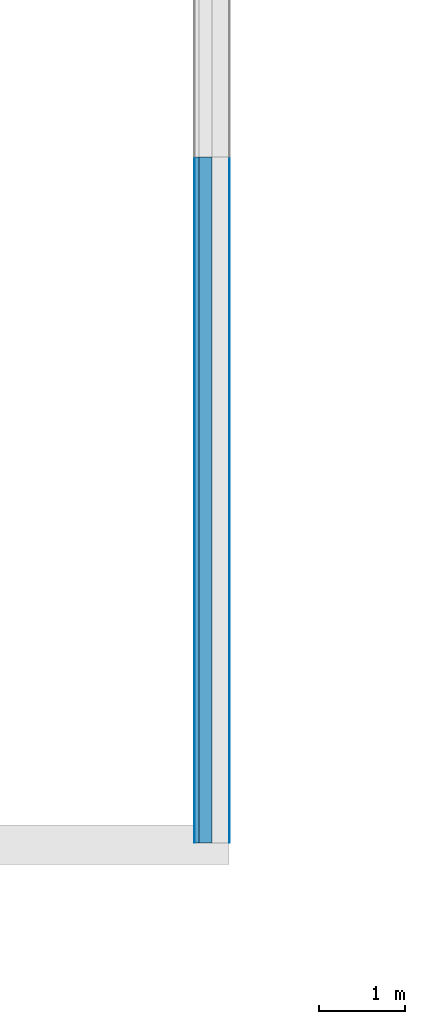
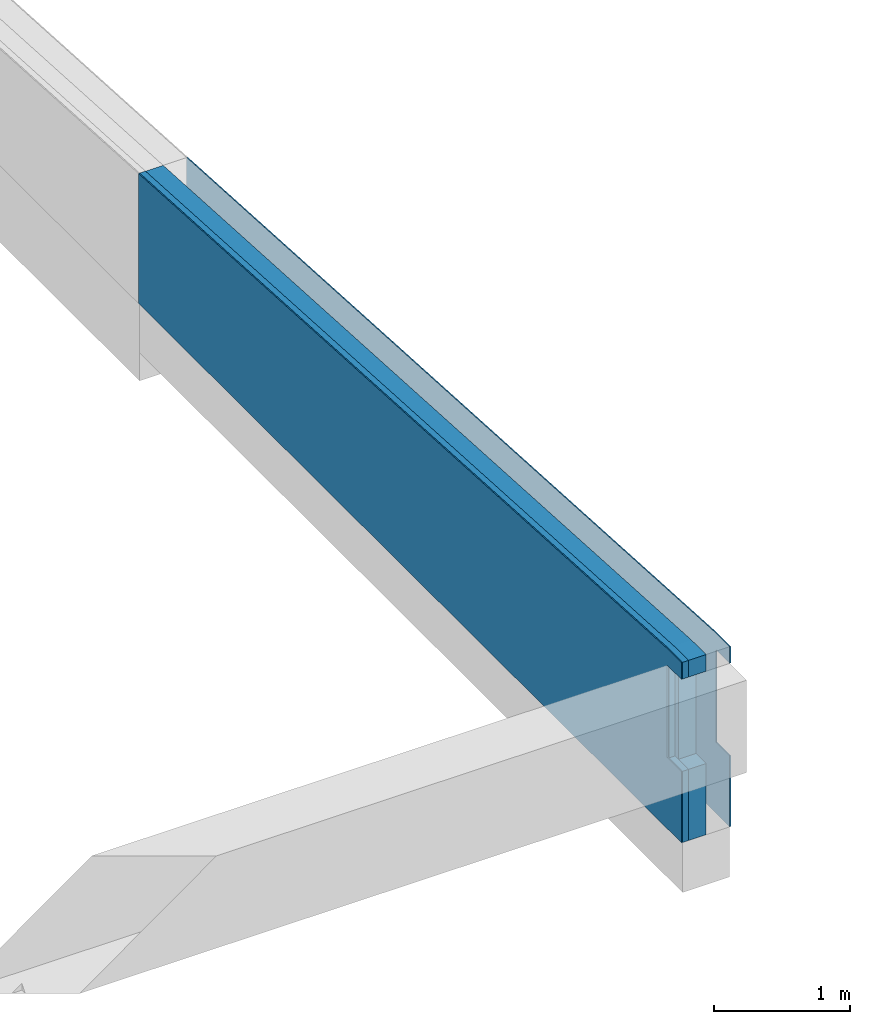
# One storey, part 5 of 17: 4 building element parts, 1 element without a shape of its own.
"""IFC2X3 building model written with IfcOpenShell, lengths in millimetres."""

from ifc_helpers import new_model, entity, si_unit, converted_unit, derived_unit, money_unit, direction, frame, origin_with_axes, place, context, subcontext, project, spatial, polyline, outline, extrude, boolean, faceted_brep, material, type_object, element, aggregate, save


model = new_model("IFC2X3")

# Units and contexts
model_context = context("Model", 3, precision=0.01, world=origin_with_axes(), true_north=direction((0.0, 1.0)))
body_context = subcontext(model_context, "Body", "Model", "MODEL_VIEW")
ifc_project = project(units=[si_unit("LENGTHUNIT", "METRE", prefix="MILLI"), si_unit("AREAUNIT", "SQUARE_METRE"), si_unit("VOLUMEUNIT", "CUBIC_METRE"), converted_unit("PLANEANGLEUNIT", "DEGREE", entity("IfcPlaneAngleMeasure", 0.0174532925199), si_unit("PLANEANGLEUNIT", "RADIAN"), dimensions=[0, 0, 0, 0, 0, 0, 0]), si_unit("SOLIDANGLEUNIT", "STERADIAN"), money_unit("EUR"), converted_unit("TIMEUNIT", "Year", entity("IfcTimeMeasure", 31556926.0), si_unit("TIMEUNIT", "SECOND"), dimensions=[0, 0, 1, 0, 0, 0, 0]), si_unit("MASSUNIT", "GRAM", prefix="KILO"), si_unit("THERMODYNAMICTEMPERATUREUNIT", "DEGREE_CELSIUS"), si_unit("LUMINOUSINTENSITYUNIT", "LUMEN"), si_unit("ENERGYUNIT", "JOULE", prefix="MEGA"), derived_unit("THERMALCONDUCTANCEUNIT", [(si_unit("POWERUNIT", "WATT"), 1), (si_unit("LENGTHUNIT", "METRE"), -1), (si_unit("THERMODYNAMICTEMPERATUREUNIT", "KELVIN"), -1)]), derived_unit("SPECIFICHEATCAPACITYUNIT", [(si_unit("ENERGYUNIT", "JOULE"), 1), (si_unit("MASSUNIT", "GRAM", prefix="KILO"), -1), (si_unit("THERMODYNAMICTEMPERATUREUNIT", "KELVIN"), -1)]), derived_unit("MASSDENSITYUNIT", [(si_unit("MASSUNIT", "GRAM", prefix="KILO"), 1), (si_unit("VOLUMEUNIT", "CUBIC_METRE"), -1)])], contexts=[model_context])

# Site, building, storey
site_placement = place(None, origin_with_axes())
site = spatial("IfcSite", under=ifc_project, at=site_placement, Name="Puškini 31, Narva", CompositionType="ELEMENT")
building_placement = place(site_placement, origin_with_axes())
building = spatial("IfcBuilding", under=site, at=building_placement, Name="Narva Riigigümnaasium", CompositionType="ELEMENT")
storey_placement = place(building_placement, frame((0.0, 0.0, -6800.0), z_axis=(0.0, 0.0, 1.0), x_axis=(1.0, 0.0, 0.0)))
storey = spatial("IfcBuildingStorey", under=building, at=storey_placement, Name="0.korrus -6.8", CompositionType="ELEMENT", Elevation=-6800.0)

# Wall, building element parts
wall_type = type_object("IfcWallType", Name="G-VS-02 420", PredefinedType="NOTDEFINED")
wall_placement = place(storey_placement, frame((22200.0, 167400.000124, 5330.0), z_axis=(0.0, 0.0, 1.0), x_axis=(0.0, -1.0, 0.0)))
wall = element("IfcWall", 1, at=wall_placement, inside=storey, type_object=wall_type, Name="Sisesein")
ifc_material_1 = material(Name="Salto-siseviimistlus")
building_element_part_1_placement = place(wall_placement, origin_with_axes())
solid_1 = boolean("DIFFERENCE", boolean("DIFFERENCE", boolean("DIFFERENCE", boolean("DIFFERENCE", boolean("DIFFERENCE", boolean("DIFFERENCE", boolean("DIFFERENCE", boolean("DIFFERENCE", extrude(outline(polyline([(0.0, 200.0), (8250.0001238, 200.0), (8250.0001238, 210.0), (0.0, 210.0), (0.0, 200.0)])), origin_with_axes(), (0.0, 0.0, 1.0), 1620.00000268), faceted_brep([(8000.0001238, 209.999998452, 640.0), (7800.0001238, 209.999998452, 640.0), (7800.0001238, 209.999998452, 1470.0), (8000.0001238, 209.999998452, 1470.0), (8000.0001238, 210.0, 1620.00000268), (8250.0001238, 210.0, 1620.00000268), (8250.0001238, 210.0, 0.0), (8000.0001238, 210.0, 0.0), (8000.0001238, 199.99999894, 640.0), (7800.0001238, 199.999997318, 640.0), (7800.0001238, 199.999997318, 1470.0), (8000.0001238, 199.999997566, 1470.0), (8000.0001238, 199.999997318, 1620.00000268), (8250.0001238, 200.0, 1620.00000268), (8250.0001238, 200.0, 0.0), (8000.0001238, 200.0, 0.0)], [[[0, 1, 2, 3, 4, 5, 6, 7]], [[1, 0, 8, 9]], [[2, 1, 9, 10]], [[3, 2, 10, 11]], [[12, 4, 3, 11]], [[4, 12, 13, 5]], [[13, 14, 6, 5]], [[15, 7, 6, 14]], [[0, 7, 15, 8]], [[8, 15, 14, 13, 12, 11, 10, 9]]])), faceted_brep([(0.0, 200.0, 150.0), (0.0, 210.0, 150.0), (0.0, 210.0, 0.0), (0.0, 200.0, 0.0), (4470.28537503, 209.999998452, 150.0), (190.000188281, 199.999997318, 150.0), (4470.28537503, 199.999997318, 150.0), (4470.28537503, 210.0, 0.0), (4470.28537503, 200.0, 0.0)], [[[0, 1, 2, 3]], [[4, 1, 0, 5, 6]], [[4, 7, 2, 1]], [[7, 8, 3, 2]], [[5, 0, 3, 8, 6]], [[7, 4, 6, 8]]])), faceted_brep([(7785.65542872, 210.0, 1620.00000261), (0.0, 210.0, 1168.5993001), (0.0, 210.0, 1620.00000268), (0.0, 200.0, 1168.5993001), (7785.65542872, 199.99999739, 1620.00000261), (0.0, 200.0, 1620.00000268)], [[[0, 1, 2]], [[3, 1, 0, 4]], [[1, 3, 5, 2]], [[4, 0, 2, 5]], [[3, 4, 5]]])), faceted_brep([(8000.0001238, 199.999997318, 1620.00000268), (8250.0001238, 200.0, 1620.00000268), (8250.0001238, 200.0, 0.0), (8000.0001238, 200.0, 0.0), (8000.0001238, 0.0, 1620.00000268), (8250.0001238, 0.0, 1620.00000268), (8250.0001238, 0.0, 0.0), (8000.0001238, 0.0, 0.0)], [[[0, 1, 2, 3]], [[0, 4, 5, 1]], [[5, 6, 2, 1]], [[7, 3, 2, 6]], [[4, 0, 3, 7]], [[7, 6, 5, 4]]])), faceted_brep([(7785.65542872, 199.99999739, 1620.00000261), (0.0, 200.0, 1168.5993001), (0.0, 200.0, 1620.00000268), (0.0, 0.0, 1168.5993001), (7785.65542872, 0.0, 1620.00000261), (0.0, 0.0, 1620.00000268)], [[[0, 1, 2]], [[3, 1, 0, 4]], [[1, 3, 5, 2]], [[4, 0, 2, 5]], [[3, 4, 5]]])), faceted_brep([(8000.0001238, 0.0, 640.0), (7850.0001238, 0.0, 640.0), (7850.0001238, 0.0, 1470.0), (8000.0001238, 0.0, 1470.0), (8000.0001238, 0.0, 1620.00000268), (8250.0001238, 0.0, 1620.00000268), (8250.0001238, 0.0, 0.0), (8000.0001238, 0.0, 0.0), (8000.0001238, -150.0, 640.0), (7850.0001238, -150.0, 640.0), (7850.0001238, -150.0, 1470.0), (8000.0001238, -150.0, 1470.0), (8000.0001238, -150.0, 1620.00000268), (8250.0001238, -150.0, 1620.00000268), (8250.0001238, -150.0, 0.0), (8000.0001238, -150.0, 0.0)], [[[0, 1, 2, 3, 4, 5, 6, 7]], [[1, 0, 8, 9]], [[2, 1, 9, 10]], [[3, 2, 10, 11]], [[12, 4, 3, 11]], [[4, 12, 13, 5]], [[13, 14, 6, 5]], [[15, 7, 6, 14]], [[7, 15, 8, 0]], [[8, 15, 14, 13, 12, 11, 10, 9]]])), faceted_brep([(7785.65542872, 0.0, 1620.00000261), (0.0, 0.0, 1168.5993001), (0.0, 0.0, 1620.00000268), (0.0, -150.0, 1168.5993001), (7785.65542872, -150.0, 1620.00000261), (0.0, -150.0, 1620.00000268)], [[[0, 1, 2]], [[3, 1, 0, 4]], [[1, 3, 5, 2]], [[4, 0, 2, 5]], [[3, 4, 5]]])), faceted_brep([(7850.0001238, -150.0, 640.0), (7800.0001238, -150.0, 640.0), (7800.0001238, -150.0, 1470.0), (7850.0001238, -150.0, 1470.0), (8000.0001238, -150.0, 1470.0), (8000.0001238, -150.0, 1620.00000268), (8250.0001238, -150.0, 1620.00000268), (8250.0001238, -150.0, 0.0), (8000.0001238, -150.0, 0.0), (8000.0001238, -150.0, 640.0), (8000.0001238, -200.0, 640.0), (7800.0001238, -199.999997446, 640.0), (7800.0001238, -199.999997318, 1470.0), (8000.0001238, -199.999997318, 1470.0), (8000.0001238, -199.999997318, 1620.00000268), (8250.0001238, -200.0, 1620.00000268), (8250.0001238, -200.0, 0.0), (8000.0001238, -200.0, 0.0)], [[[0, 1, 2, 3, 4, 5, 6, 7, 8, 9]], [[1, 0, 9, 10, 11]], [[2, 1, 11, 12]], [[3, 2, 12, 13, 4]], [[14, 5, 4, 13]], [[5, 14, 15, 6]], [[15, 16, 7, 6]], [[17, 8, 7, 16]], [[9, 8, 17, 10]], [[10, 17, 16, 15, 14, 13, 12, 11]]]))
building_element_part_1 = element("IfcBuildingElementPart", 2, at=building_element_part_1_placement, material=ifc_material_1, Name="Salto-siseviimistlus", context=body_context, shape_type="CSG", body=[
    boolean("DIFFERENCE", boolean("DIFFERENCE", boolean("DIFFERENCE", solid_1, faceted_brep([(7785.65542872, -150.0, 1620.00000261), (0.0, -150.0, 1168.5993001), (0.0, -150.0, 1620.00000268), (0.0, -200.0, 1168.5993001), (7785.65542872, -199.99999739, 1620.00000261), (0.0, -200.0, 1620.00000268)], [[[0, 1, 2]], [[3, 1, 0, 4]], [[1, 3, 5, 2]], [[4, 0, 2, 5]], [[3, 4, 5]]])), faceted_brep([(7790.0001238, -199.999997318, 640.0), (7790.0001238, -199.999997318, 1470.0), (8000.0001238, -199.999997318, 1470.0), (8000.0001238, -199.999997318, 1620.00000268), (8250.0001238, -200.0, 1620.00000268), (8250.0001238, -200.0, 0.0), (8000.0001238, -200.0, 0.0), (8000.0001238, -200.0, 640.0), (7790.0001238, -210.0, 640.0), (7790.0001238, -210.0, 1470.0), (8000.0001238, -210.0, 1470.0), (8000.0001238, -210.0, 1620.00000268), (8250.0001238, -210.0, 1620.00000268), (8250.0001238, -210.0, 0.0), (8000.0001238, -210.0, 0.0), (8000.0001238, -210.0, 640.0)], [[[0, 1, 2, 3, 4, 5, 6, 7]], [[1, 0, 8, 9]], [[1, 9, 10, 2]], [[11, 3, 2, 10]], [[3, 11, 12, 4]], [[12, 13, 5, 4]], [[14, 6, 5, 13]], [[6, 14, 15, 7]], [[0, 7, 15, 8]], [[15, 14, 13, 12, 11, 10, 9, 8]]])), faceted_brep([(7785.65542872, -199.99999739, 1620.00000261), (0.0, -200.0, 1168.5993001), (0.0, -200.0, 1620.00000268), (0.0, -210.0, 1168.5993001), (7785.65542872, -210.0, 1620.00000261), (0.0, -210.0, 1620.00000268)], [[[0, 1, 2]], [[3, 1, 0, 4]], [[1, 3, 5, 2]], [[4, 0, 2, 5]], [[3, 4, 5]]])),
])
ifc_material_2 = material(Name="Salto-PIR soojustus")
building_element_part_2_placement = place(wall_placement, origin_with_axes())
solid_2 = boolean("DIFFERENCE", boolean("DIFFERENCE", boolean("DIFFERENCE", boolean("DIFFERENCE", boolean("DIFFERENCE", boolean("DIFFERENCE", boolean("DIFFERENCE", boolean("DIFFERENCE", extrude(outline(polyline([(0.0, -150.0), (8250.0001238, -150.0), (8250.0001238, 0.0), (0.0, 0.0), (0.0, -150.0)])), origin_with_axes(), (0.0, 0.0, 1.0), 1620.00000268), faceted_brep([(8000.0001238, 209.999998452, 640.0), (7800.0001238, 209.999998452, 640.0), (7800.0001238, 209.999998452, 1470.0), (8000.0001238, 209.999998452, 1470.0), (8000.0001238, 210.0, 1620.00000268), (8250.0001238, 210.0, 1620.00000268), (8250.0001238, 210.0, 0.0), (8000.0001238, 210.0, 0.0), (8000.0001238, 199.99999894, 640.0), (7800.0001238, 199.999997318, 640.0), (7800.0001238, 199.999997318, 1470.0), (8000.0001238, 199.999997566, 1470.0), (8000.0001238, 199.999997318, 1620.00000268), (8250.0001238, 200.0, 1620.00000268), (8250.0001238, 200.0, 0.0), (8000.0001238, 200.0, 0.0)], [[[0, 1, 2, 3, 4, 5, 6, 7]], [[1, 0, 8, 9]], [[2, 1, 9, 10]], [[3, 2, 10, 11]], [[12, 4, 3, 11]], [[4, 12, 13, 5]], [[13, 14, 6, 5]], [[15, 7, 6, 14]], [[0, 7, 15, 8]], [[8, 15, 14, 13, 12, 11, 10, 9]]])), faceted_brep([(0.0, 200.0, 150.0), (0.0, 210.0, 150.0), (0.0, 210.0, 0.0), (0.0, 200.0, 0.0), (4470.28537503, 209.999998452, 150.0), (190.000188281, 199.999997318, 150.0), (4470.28537503, 199.999997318, 150.0), (4470.28537503, 210.0, 0.0), (4470.28537503, 200.0, 0.0)], [[[0, 1, 2, 3]], [[4, 1, 0, 5, 6]], [[4, 7, 2, 1]], [[7, 8, 3, 2]], [[5, 0, 3, 8, 6]], [[7, 4, 6, 8]]])), faceted_brep([(7785.65542872, 210.0, 1620.00000261), (0.0, 210.0, 1168.5993001), (0.0, 210.0, 1620.00000268), (0.0, 200.0, 1168.5993001), (7785.65542872, 199.99999739, 1620.00000261), (0.0, 200.0, 1620.00000268)], [[[0, 1, 2]], [[3, 1, 0, 4]], [[1, 3, 5, 2]], [[4, 0, 2, 5]], [[3, 4, 5]]])), faceted_brep([(8000.0001238, 199.999997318, 1620.00000268), (8250.0001238, 200.0, 1620.00000268), (8250.0001238, 200.0, 0.0), (8000.0001238, 200.0, 0.0), (8000.0001238, 0.0, 1620.00000268), (8250.0001238, 0.0, 1620.00000268), (8250.0001238, 0.0, 0.0), (8000.0001238, 0.0, 0.0)], [[[0, 1, 2, 3]], [[0, 4, 5, 1]], [[5, 6, 2, 1]], [[7, 3, 2, 6]], [[4, 0, 3, 7]], [[7, 6, 5, 4]]])), faceted_brep([(7785.65542872, 199.99999739, 1620.00000261), (0.0, 200.0, 1168.5993001), (0.0, 200.0, 1620.00000268), (0.0, 0.0, 1168.5993001), (7785.65542872, 0.0, 1620.00000261), (0.0, 0.0, 1620.00000268)], [[[0, 1, 2]], [[3, 1, 0, 4]], [[1, 3, 5, 2]], [[4, 0, 2, 5]], [[3, 4, 5]]])), faceted_brep([(8000.0001238, 0.0, 640.0), (7850.0001238, 0.0, 640.0), (7850.0001238, 0.0, 1470.0), (8000.0001238, 0.0, 1470.0), (8000.0001238, 0.0, 1620.00000268), (8250.0001238, 0.0, 1620.00000268), (8250.0001238, 0.0, 0.0), (8000.0001238, 0.0, 0.0), (8000.0001238, -150.0, 640.0), (7850.0001238, -150.0, 640.0), (7850.0001238, -150.0, 1470.0), (8000.0001238, -150.0, 1470.0), (8000.0001238, -150.0, 1620.00000268), (8250.0001238, -150.0, 1620.00000268), (8250.0001238, -150.0, 0.0), (8000.0001238, -150.0, 0.0)], [[[0, 1, 2, 3, 4, 5, 6, 7]], [[1, 0, 8, 9]], [[2, 1, 9, 10]], [[3, 2, 10, 11]], [[12, 4, 3, 11]], [[4, 12, 13, 5]], [[13, 14, 6, 5]], [[15, 7, 6, 14]], [[7, 15, 8, 0]], [[8, 15, 14, 13, 12, 11, 10, 9]]])), faceted_brep([(7785.65542872, 0.0, 1620.00000261), (0.0, 0.0, 1168.5993001), (0.0, 0.0, 1620.00000268), (0.0, -150.0, 1168.5993001), (7785.65542872, -150.0, 1620.00000261), (0.0, -150.0, 1620.00000268)], [[[0, 1, 2]], [[3, 1, 0, 4]], [[1, 3, 5, 2]], [[4, 0, 2, 5]], [[3, 4, 5]]])), faceted_brep([(7850.0001238, -150.0, 640.0), (7800.0001238, -150.0, 640.0), (7800.0001238, -150.0, 1470.0), (7850.0001238, -150.0, 1470.0), (8000.0001238, -150.0, 1470.0), (8000.0001238, -150.0, 1620.00000268), (8250.0001238, -150.0, 1620.00000268), (8250.0001238, -150.0, 0.0), (8000.0001238, -150.0, 0.0), (8000.0001238, -150.0, 640.0), (8000.0001238, -200.0, 640.0), (7800.0001238, -199.999997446, 640.0), (7800.0001238, -199.999997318, 1470.0), (8000.0001238, -199.999997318, 1470.0), (8000.0001238, -199.999997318, 1620.00000268), (8250.0001238, -200.0, 1620.00000268), (8250.0001238, -200.0, 0.0), (8000.0001238, -200.0, 0.0)], [[[0, 1, 2, 3, 4, 5, 6, 7, 8, 9]], [[1, 0, 9, 10, 11]], [[2, 1, 11, 12]], [[3, 2, 12, 13, 4]], [[14, 5, 4, 13]], [[5, 14, 15, 6]], [[15, 16, 7, 6]], [[17, 8, 7, 16]], [[9, 8, 17, 10]], [[10, 17, 16, 15, 14, 13, 12, 11]]]))
building_element_part_2 = element("IfcBuildingElementPart", 3, at=building_element_part_2_placement, material=ifc_material_2, Name="Salto-PIR soojustus", context=body_context, shape_type="CSG", body=[
    boolean("DIFFERENCE", boolean("DIFFERENCE", boolean("DIFFERENCE", solid_2, faceted_brep([(7785.65542872, -150.0, 1620.00000261), (0.0, -150.0, 1168.5993001), (0.0, -150.0, 1620.00000268), (0.0, -200.0, 1168.5993001), (7785.65542872, -199.99999739, 1620.00000261), (0.0, -200.0, 1620.00000268)], [[[0, 1, 2]], [[3, 1, 0, 4]], [[1, 3, 5, 2]], [[4, 0, 2, 5]], [[3, 4, 5]]])), faceted_brep([(7790.0001238, -199.999997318, 640.0), (7790.0001238, -199.999997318, 1470.0), (8000.0001238, -199.999997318, 1470.0), (8000.0001238, -199.999997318, 1620.00000268), (8250.0001238, -200.0, 1620.00000268), (8250.0001238, -200.0, 0.0), (8000.0001238, -200.0, 0.0), (8000.0001238, -200.0, 640.0), (7790.0001238, -210.0, 640.0), (7790.0001238, -210.0, 1470.0), (8000.0001238, -210.0, 1470.0), (8000.0001238, -210.0, 1620.00000268), (8250.0001238, -210.0, 1620.00000268), (8250.0001238, -210.0, 0.0), (8000.0001238, -210.0, 0.0), (8000.0001238, -210.0, 640.0)], [[[0, 1, 2, 3, 4, 5, 6, 7]], [[1, 0, 8, 9]], [[1, 9, 10, 2]], [[11, 3, 2, 10]], [[3, 11, 12, 4]], [[12, 13, 5, 4]], [[14, 6, 5, 13]], [[6, 14, 15, 7]], [[0, 7, 15, 8]], [[15, 14, 13, 12, 11, 10, 9, 8]]])), faceted_brep([(7785.65542872, -199.99999739, 1620.00000261), (0.0, -200.0, 1168.5993001), (0.0, -200.0, 1620.00000268), (0.0, -210.0, 1168.5993001), (7785.65542872, -210.0, 1620.00000261), (0.0, -210.0, 1620.00000268)], [[[0, 1, 2]], [[3, 1, 0, 4]], [[1, 3, 5, 2]], [[4, 0, 2, 5]], [[3, 4, 5]]])),
])
building_element_part_3_placement = place(wall_placement, origin_with_axes())
solid_3 = boolean("DIFFERENCE", boolean("DIFFERENCE", boolean("DIFFERENCE", boolean("DIFFERENCE", boolean("DIFFERENCE", boolean("DIFFERENCE", boolean("DIFFERENCE", boolean("DIFFERENCE", extrude(outline(polyline([(0.0, -200.0), (8250.0001238, -200.0), (8250.0001238, -150.0), (0.0, -150.0), (0.0, -200.0)])), origin_with_axes(), (0.0, 0.0, 1.0), 1620.00000268), faceted_brep([(8000.0001238, 209.999998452, 640.0), (7800.0001238, 209.999998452, 640.0), (7800.0001238, 209.999998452, 1470.0), (8000.0001238, 209.999998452, 1470.0), (8000.0001238, 210.0, 1620.00000268), (8250.0001238, 210.0, 1620.00000268), (8250.0001238, 210.0, 0.0), (8000.0001238, 210.0, 0.0), (8000.0001238, 199.99999894, 640.0), (7800.0001238, 199.999997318, 640.0), (7800.0001238, 199.999997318, 1470.0), (8000.0001238, 199.999997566, 1470.0), (8000.0001238, 199.999997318, 1620.00000268), (8250.0001238, 200.0, 1620.00000268), (8250.0001238, 200.0, 0.0), (8000.0001238, 200.0, 0.0)], [[[0, 1, 2, 3, 4, 5, 6, 7]], [[1, 0, 8, 9]], [[2, 1, 9, 10]], [[3, 2, 10, 11]], [[12, 4, 3, 11]], [[4, 12, 13, 5]], [[13, 14, 6, 5]], [[15, 7, 6, 14]], [[0, 7, 15, 8]], [[8, 15, 14, 13, 12, 11, 10, 9]]])), faceted_brep([(0.0, 200.0, 150.0), (0.0, 210.0, 150.0), (0.0, 210.0, 0.0), (0.0, 200.0, 0.0), (4470.28537503, 209.999998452, 150.0), (190.000188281, 199.999997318, 150.0), (4470.28537503, 199.999997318, 150.0), (4470.28537503, 210.0, 0.0), (4470.28537503, 200.0, 0.0)], [[[0, 1, 2, 3]], [[4, 1, 0, 5, 6]], [[4, 7, 2, 1]], [[7, 8, 3, 2]], [[5, 0, 3, 8, 6]], [[7, 4, 6, 8]]])), faceted_brep([(7785.65542872, 210.0, 1620.00000261), (0.0, 210.0, 1168.5993001), (0.0, 210.0, 1620.00000268), (0.0, 200.0, 1168.5993001), (7785.65542872, 199.99999739, 1620.00000261), (0.0, 200.0, 1620.00000268)], [[[0, 1, 2]], [[3, 1, 0, 4]], [[1, 3, 5, 2]], [[4, 0, 2, 5]], [[3, 4, 5]]])), faceted_brep([(8000.0001238, 199.999997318, 1620.00000268), (8250.0001238, 200.0, 1620.00000268), (8250.0001238, 200.0, 0.0), (8000.0001238, 200.0, 0.0), (8000.0001238, 0.0, 1620.00000268), (8250.0001238, 0.0, 1620.00000268), (8250.0001238, 0.0, 0.0), (8000.0001238, 0.0, 0.0)], [[[0, 1, 2, 3]], [[0, 4, 5, 1]], [[5, 6, 2, 1]], [[7, 3, 2, 6]], [[4, 0, 3, 7]], [[7, 6, 5, 4]]])), faceted_brep([(7785.65542872, 199.99999739, 1620.00000261), (0.0, 200.0, 1168.5993001), (0.0, 200.0, 1620.00000268), (0.0, 0.0, 1168.5993001), (7785.65542872, 0.0, 1620.00000261), (0.0, 0.0, 1620.00000268)], [[[0, 1, 2]], [[3, 1, 0, 4]], [[1, 3, 5, 2]], [[4, 0, 2, 5]], [[3, 4, 5]]])), faceted_brep([(8000.0001238, 0.0, 640.0), (7850.0001238, 0.0, 640.0), (7850.0001238, 0.0, 1470.0), (8000.0001238, 0.0, 1470.0), (8000.0001238, 0.0, 1620.00000268), (8250.0001238, 0.0, 1620.00000268), (8250.0001238, 0.0, 0.0), (8000.0001238, 0.0, 0.0), (8000.0001238, -150.0, 640.0), (7850.0001238, -150.0, 640.0), (7850.0001238, -150.0, 1470.0), (8000.0001238, -150.0, 1470.0), (8000.0001238, -150.0, 1620.00000268), (8250.0001238, -150.0, 1620.00000268), (8250.0001238, -150.0, 0.0), (8000.0001238, -150.0, 0.0)], [[[0, 1, 2, 3, 4, 5, 6, 7]], [[1, 0, 8, 9]], [[2, 1, 9, 10]], [[3, 2, 10, 11]], [[12, 4, 3, 11]], [[4, 12, 13, 5]], [[13, 14, 6, 5]], [[15, 7, 6, 14]], [[7, 15, 8, 0]], [[8, 15, 14, 13, 12, 11, 10, 9]]])), faceted_brep([(7785.65542872, 0.0, 1620.00000261), (0.0, 0.0, 1168.5993001), (0.0, 0.0, 1620.00000268), (0.0, -150.0, 1168.5993001), (7785.65542872, -150.0, 1620.00000261), (0.0, -150.0, 1620.00000268)], [[[0, 1, 2]], [[3, 1, 0, 4]], [[1, 3, 5, 2]], [[4, 0, 2, 5]], [[3, 4, 5]]])), faceted_brep([(7850.0001238, -150.0, 640.0), (7800.0001238, -150.0, 640.0), (7800.0001238, -150.0, 1470.0), (7850.0001238, -150.0, 1470.0), (8000.0001238, -150.0, 1470.0), (8000.0001238, -150.0, 1620.00000268), (8250.0001238, -150.0, 1620.00000268), (8250.0001238, -150.0, 0.0), (8000.0001238, -150.0, 0.0), (8000.0001238, -150.0, 640.0), (8000.0001238, -200.0, 640.0), (7800.0001238, -199.999997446, 640.0), (7800.0001238, -199.999997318, 1470.0), (8000.0001238, -199.999997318, 1470.0), (8000.0001238, -199.999997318, 1620.00000268), (8250.0001238, -200.0, 1620.00000268), (8250.0001238, -200.0, 0.0), (8000.0001238, -200.0, 0.0)], [[[0, 1, 2, 3, 4, 5, 6, 7, 8, 9]], [[1, 0, 9, 10, 11]], [[2, 1, 11, 12]], [[3, 2, 12, 13, 4]], [[14, 5, 4, 13]], [[5, 14, 15, 6]], [[15, 16, 7, 6]], [[17, 8, 7, 16]], [[9, 8, 17, 10]], [[10, 17, 16, 15, 14, 13, 12, 11]]]))
building_element_part_3 = element("IfcBuildingElementPart", 4, at=building_element_part_3_placement, material=ifc_material_2, Name="Salto-PIR soojustus", context=body_context, shape_type="CSG", body=[
    boolean("DIFFERENCE", boolean("DIFFERENCE", boolean("DIFFERENCE", solid_3, faceted_brep([(7785.65542872, -150.0, 1620.00000261), (0.0, -150.0, 1168.5993001), (0.0, -150.0, 1620.00000268), (0.0, -200.0, 1168.5993001), (7785.65542872, -199.99999739, 1620.00000261), (0.0, -200.0, 1620.00000268)], [[[0, 1, 2]], [[3, 1, 0, 4]], [[1, 3, 5, 2]], [[4, 0, 2, 5]], [[3, 4, 5]]])), faceted_brep([(7790.0001238, -199.999997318, 640.0), (7790.0001238, -199.999997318, 1470.0), (8000.0001238, -199.999997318, 1470.0), (8000.0001238, -199.999997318, 1620.00000268), (8250.0001238, -200.0, 1620.00000268), (8250.0001238, -200.0, 0.0), (8000.0001238, -200.0, 0.0), (8000.0001238, -200.0, 640.0), (7790.0001238, -210.0, 640.0), (7790.0001238, -210.0, 1470.0), (8000.0001238, -210.0, 1470.0), (8000.0001238, -210.0, 1620.00000268), (8250.0001238, -210.0, 1620.00000268), (8250.0001238, -210.0, 0.0), (8000.0001238, -210.0, 0.0), (8000.0001238, -210.0, 640.0)], [[[0, 1, 2, 3, 4, 5, 6, 7]], [[1, 0, 8, 9]], [[1, 9, 10, 2]], [[11, 3, 2, 10]], [[3, 11, 12, 4]], [[12, 13, 5, 4]], [[14, 6, 5, 13]], [[6, 14, 15, 7]], [[0, 7, 15, 8]], [[15, 14, 13, 12, 11, 10, 9, 8]]])), faceted_brep([(7785.65542872, -199.99999739, 1620.00000261), (0.0, -200.0, 1168.5993001), (0.0, -200.0, 1620.00000268), (0.0, -210.0, 1168.5993001), (7785.65542872, -210.0, 1620.00000261), (0.0, -210.0, 1620.00000268)], [[[0, 1, 2]], [[3, 1, 0, 4]], [[1, 3, 5, 2]], [[4, 0, 2, 5]], [[3, 4, 5]]])),
])
ifc_material_3 = material(Name="Krohv")
building_element_part_4_placement = place(wall_placement, origin_with_axes())
solid_4 = boolean("DIFFERENCE", boolean("DIFFERENCE", boolean("DIFFERENCE", boolean("DIFFERENCE", boolean("DIFFERENCE", boolean("DIFFERENCE", boolean("DIFFERENCE", boolean("DIFFERENCE", extrude(outline(polyline([(0.0, -210.0), (8250.0001238, -210.0), (8250.0001238, -200.0), (0.0, -200.0), (0.0, -210.0)])), origin_with_axes(), (0.0, 0.0, 1.0), 1620.00000268), faceted_brep([(8000.0001238, 209.999998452, 640.0), (7800.0001238, 209.999998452, 640.0), (7800.0001238, 209.999998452, 1470.0), (8000.0001238, 209.999998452, 1470.0), (8000.0001238, 210.0, 1620.00000268), (8250.0001238, 210.0, 1620.00000268), (8250.0001238, 210.0, 0.0), (8000.0001238, 210.0, 0.0), (8000.0001238, 199.99999894, 640.0), (7800.0001238, 199.999997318, 640.0), (7800.0001238, 199.999997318, 1470.0), (8000.0001238, 199.999997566, 1470.0), (8000.0001238, 199.999997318, 1620.00000268), (8250.0001238, 200.0, 1620.00000268), (8250.0001238, 200.0, 0.0), (8000.0001238, 200.0, 0.0)], [[[0, 1, 2, 3, 4, 5, 6, 7]], [[1, 0, 8, 9]], [[2, 1, 9, 10]], [[3, 2, 10, 11]], [[12, 4, 3, 11]], [[4, 12, 13, 5]], [[13, 14, 6, 5]], [[15, 7, 6, 14]], [[0, 7, 15, 8]], [[8, 15, 14, 13, 12, 11, 10, 9]]])), faceted_brep([(0.0, 200.0, 150.0), (0.0, 210.0, 150.0), (0.0, 210.0, 0.0), (0.0, 200.0, 0.0), (4470.28537503, 209.999998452, 150.0), (190.000188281, 199.999997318, 150.0), (4470.28537503, 199.999997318, 150.0), (4470.28537503, 210.0, 0.0), (4470.28537503, 200.0, 0.0)], [[[0, 1, 2, 3]], [[4, 1, 0, 5, 6]], [[4, 7, 2, 1]], [[7, 8, 3, 2]], [[5, 0, 3, 8, 6]], [[7, 4, 6, 8]]])), faceted_brep([(7785.65542872, 210.0, 1620.00000261), (0.0, 210.0, 1168.5993001), (0.0, 210.0, 1620.00000268), (0.0, 200.0, 1168.5993001), (7785.65542872, 199.99999739, 1620.00000261), (0.0, 200.0, 1620.00000268)], [[[0, 1, 2]], [[3, 1, 0, 4]], [[1, 3, 5, 2]], [[4, 0, 2, 5]], [[3, 4, 5]]])), faceted_brep([(8000.0001238, 199.999997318, 1620.00000268), (8250.0001238, 200.0, 1620.00000268), (8250.0001238, 200.0, 0.0), (8000.0001238, 200.0, 0.0), (8000.0001238, 0.0, 1620.00000268), (8250.0001238, 0.0, 1620.00000268), (8250.0001238, 0.0, 0.0), (8000.0001238, 0.0, 0.0)], [[[0, 1, 2, 3]], [[0, 4, 5, 1]], [[5, 6, 2, 1]], [[7, 3, 2, 6]], [[4, 0, 3, 7]], [[7, 6, 5, 4]]])), faceted_brep([(7785.65542872, 199.99999739, 1620.00000261), (0.0, 200.0, 1168.5993001), (0.0, 200.0, 1620.00000268), (0.0, 0.0, 1168.5993001), (7785.65542872, 0.0, 1620.00000261), (0.0, 0.0, 1620.00000268)], [[[0, 1, 2]], [[3, 1, 0, 4]], [[1, 3, 5, 2]], [[4, 0, 2, 5]], [[3, 4, 5]]])), faceted_brep([(8000.0001238, 0.0, 640.0), (7850.0001238, 0.0, 640.0), (7850.0001238, 0.0, 1470.0), (8000.0001238, 0.0, 1470.0), (8000.0001238, 0.0, 1620.00000268), (8250.0001238, 0.0, 1620.00000268), (8250.0001238, 0.0, 0.0), (8000.0001238, 0.0, 0.0), (8000.0001238, -150.0, 640.0), (7850.0001238, -150.0, 640.0), (7850.0001238, -150.0, 1470.0), (8000.0001238, -150.0, 1470.0), (8000.0001238, -150.0, 1620.00000268), (8250.0001238, -150.0, 1620.00000268), (8250.0001238, -150.0, 0.0), (8000.0001238, -150.0, 0.0)], [[[0, 1, 2, 3, 4, 5, 6, 7]], [[1, 0, 8, 9]], [[2, 1, 9, 10]], [[3, 2, 10, 11]], [[12, 4, 3, 11]], [[4, 12, 13, 5]], [[13, 14, 6, 5]], [[15, 7, 6, 14]], [[7, 15, 8, 0]], [[8, 15, 14, 13, 12, 11, 10, 9]]])), faceted_brep([(7785.65542872, 0.0, 1620.00000261), (0.0, 0.0, 1168.5993001), (0.0, 0.0, 1620.00000268), (0.0, -150.0, 1168.5993001), (7785.65542872, -150.0, 1620.00000261), (0.0, -150.0, 1620.00000268)], [[[0, 1, 2]], [[3, 1, 0, 4]], [[1, 3, 5, 2]], [[4, 0, 2, 5]], [[3, 4, 5]]])), faceted_brep([(7850.0001238, -150.0, 640.0), (7800.0001238, -150.0, 640.0), (7800.0001238, -150.0, 1470.0), (7850.0001238, -150.0, 1470.0), (8000.0001238, -150.0, 1470.0), (8000.0001238, -150.0, 1620.00000268), (8250.0001238, -150.0, 1620.00000268), (8250.0001238, -150.0, 0.0), (8000.0001238, -150.0, 0.0), (8000.0001238, -150.0, 640.0), (8000.0001238, -200.0, 640.0), (7800.0001238, -199.999997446, 640.0), (7800.0001238, -199.999997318, 1470.0), (8000.0001238, -199.999997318, 1470.0), (8000.0001238, -199.999997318, 1620.00000268), (8250.0001238, -200.0, 1620.00000268), (8250.0001238, -200.0, 0.0), (8000.0001238, -200.0, 0.0)], [[[0, 1, 2, 3, 4, 5, 6, 7, 8, 9]], [[1, 0, 9, 10, 11]], [[2, 1, 11, 12]], [[3, 2, 12, 13, 4]], [[14, 5, 4, 13]], [[5, 14, 15, 6]], [[15, 16, 7, 6]], [[17, 8, 7, 16]], [[9, 8, 17, 10]], [[10, 17, 16, 15, 14, 13, 12, 11]]]))
building_element_part_4 = element("IfcBuildingElementPart", 5, at=building_element_part_4_placement, material=ifc_material_3, Name="Krohv", context=body_context, shape_type="CSG", body=[
    boolean("DIFFERENCE", boolean("DIFFERENCE", boolean("DIFFERENCE", solid_4, faceted_brep([(7785.65542872, -150.0, 1620.00000261), (0.0, -150.0, 1168.5993001), (0.0, -150.0, 1620.00000268), (0.0, -200.0, 1168.5993001), (7785.65542872, -199.99999739, 1620.00000261), (0.0, -200.0, 1620.00000268)], [[[0, 1, 2]], [[3, 1, 0, 4]], [[1, 3, 5, 2]], [[4, 0, 2, 5]], [[3, 4, 5]]])), faceted_brep([(7790.0001238, -199.999997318, 640.0), (7790.0001238, -199.999997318, 1470.0), (8000.0001238, -199.999997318, 1470.0), (8000.0001238, -199.999997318, 1620.00000268), (8250.0001238, -200.0, 1620.00000268), (8250.0001238, -200.0, 0.0), (8000.0001238, -200.0, 0.0), (8000.0001238, -200.0, 640.0), (7790.0001238, -210.0, 640.0), (7790.0001238, -210.0, 1470.0), (8000.0001238, -210.0, 1470.0), (8000.0001238, -210.0, 1620.00000268), (8250.0001238, -210.0, 1620.00000268), (8250.0001238, -210.0, 0.0), (8000.0001238, -210.0, 0.0), (8000.0001238, -210.0, 640.0)], [[[0, 1, 2, 3, 4, 5, 6, 7]], [[1, 0, 8, 9]], [[1, 9, 10, 2]], [[11, 3, 2, 10]], [[3, 11, 12, 4]], [[12, 13, 5, 4]], [[14, 6, 5, 13]], [[6, 14, 15, 7]], [[0, 7, 15, 8]], [[15, 14, 13, 12, 11, 10, 9, 8]]])), faceted_brep([(7785.65542872, -199.99999739, 1620.00000261), (0.0, -200.0, 1168.5993001), (0.0, -200.0, 1620.00000268), (0.0, -210.0, 1168.5993001), (7785.65542872, -210.0, 1620.00000261), (0.0, -210.0, 1620.00000268)], [[[0, 1, 2]], [[3, 1, 0, 4]], [[1, 3, 5, 2]], [[4, 0, 2, 5]], [[3, 4, 5]]])),
])
aggregate(wall, [building_element_part_1, building_element_part_2, building_element_part_3, building_element_part_4])

save(model, "model.ifc")
